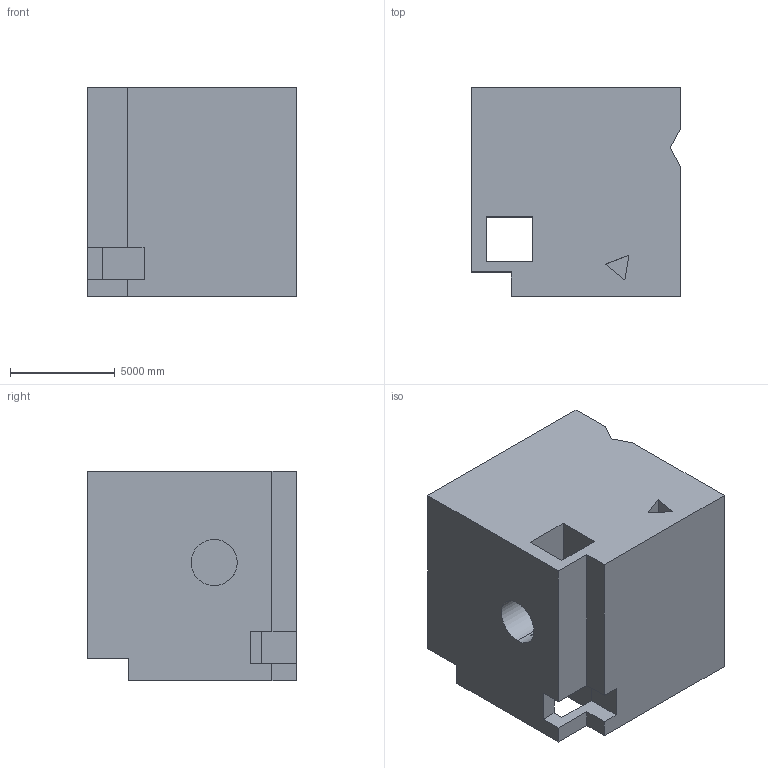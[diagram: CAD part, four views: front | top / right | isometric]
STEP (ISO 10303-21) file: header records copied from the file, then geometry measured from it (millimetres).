
FILE_DESCRIPTION (( 'STEP AP203' ), '1' );
FILE_NAME ('841.STEP', '2022-07-29T13:37:41', ( 'user' ), ( '' ), 'SwSTEP 2.0', 'SolidWorks 2021', '' );
FILE_SCHEMA (( 'CONFIG_CONTROL_DESIGN' ));
Length unit declared in the file: centimetre
Products named in the file (1): 841
Bounding box: 10000 x 10000 x 10000 mm (x, y, z)
Volume: 863360778184.4 mm3; surface area: 729212164.2 mm2
Topology: 1 solids, 1 shells, 42 faces, 119 edges, 79 vertices
Faces by surface type: plane 40, cylinder 2
Entity records: 1430 total; most frequent: CARTESIAN_POINT 241, ORIENTED_EDGE 238, DIRECTION 211, EDGE_CURVE 119, VECTOR 113, LINE 113, VERTEX_POINT 79, AXIS2_PLACEMENT_3D 49
